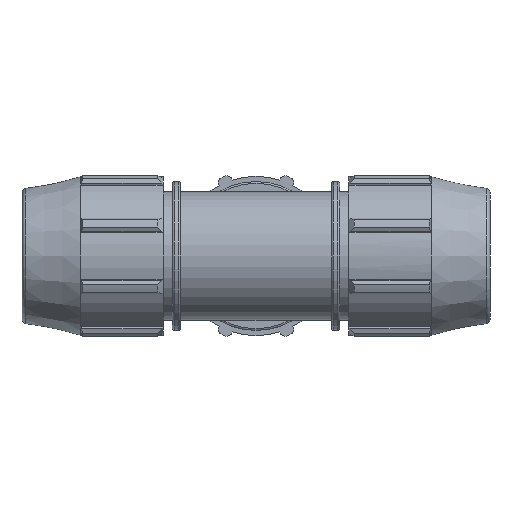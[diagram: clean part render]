
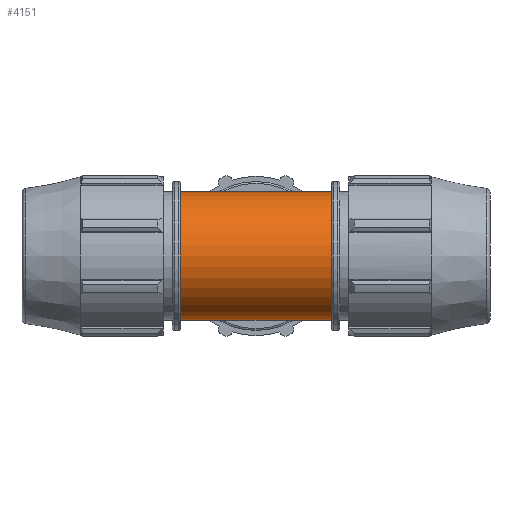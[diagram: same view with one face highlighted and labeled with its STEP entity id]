
A CAD part, front view. The second image highlights one B-rep face of the part: STEP entity #4151.
In plain terms, the highlighted cylindrical face has radius 24.003 mm (diameter 48.006 mm), a full revolution.
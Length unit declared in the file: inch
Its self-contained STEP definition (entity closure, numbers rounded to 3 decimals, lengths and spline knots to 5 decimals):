
#131=ELLIPSE('',#4396,1.33643,0.945);
#132=ELLIPSE('',#4397,1.33643,0.945);
#133=ELLIPSE('',#4399,1.33643,0.945);
#134=ELLIPSE('',#4400,1.33643,0.945);
#139=LINE('',#6057,#454);
#140=LINE('',#6063,#455);
#454=VECTOR('',#4858,0.945);
#455=VECTOR('',#4863,0.945);
#769=CYLINDRICAL_SURFACE('',#4393,0.945);
#850=FACE_OUTER_BOUND('',#1064,.T.);
#1064=EDGE_LOOP('',(#2583,#2584,#2585,#2586,#2587,#2588,#2589,#2590,#2591,
#2592,#2593));
#1299=CIRCLE('',#4394,0.945);
#1300=CIRCLE('',#4395,0.945);
#1301=CIRCLE('',#4398,0.945);
#1523=VERTEX_POINT('',#6052);
#1524=VERTEX_POINT('',#6053);
#1525=VERTEX_POINT('',#6056);
#1526=VERTEX_POINT('',#6058);
#1527=VERTEX_POINT('',#6060);
#1528=VERTEX_POINT('',#6062);
#1529=VERTEX_POINT('',#6065);
#1954=EDGE_CURVE('',#1523,#1524,#1299,.T.);
#1955=EDGE_CURVE('',#1524,#1523,#1300,.T.);
#1956=EDGE_CURVE('',#1524,#1525,#139,.T.);
#1957=EDGE_CURVE('',#1525,#1526,#131,.T.);
#1958=EDGE_CURVE('',#1526,#1527,#132,.T.);
#1959=EDGE_CURVE('',#1527,#1528,#140,.T.);
#1960=EDGE_CURVE('',#1528,#1528,#1301,.T.);
#1961=EDGE_CURVE('',#1527,#1529,#133,.T.);
#1962=EDGE_CURVE('',#1529,#1525,#134,.T.);
#2583=ORIENTED_EDGE('',*,*,#1954,.F.);
#2584=ORIENTED_EDGE('',*,*,#1955,.F.);
#2585=ORIENTED_EDGE('',*,*,#1956,.T.);
#2586=ORIENTED_EDGE('',*,*,#1957,.T.);
#2587=ORIENTED_EDGE('',*,*,#1958,.T.);
#2588=ORIENTED_EDGE('',*,*,#1959,.T.);
#2589=ORIENTED_EDGE('',*,*,#1960,.F.);
#2590=ORIENTED_EDGE('',*,*,#1959,.F.);
#2591=ORIENTED_EDGE('',*,*,#1961,.T.);
#2592=ORIENTED_EDGE('',*,*,#1962,.T.);
#2593=ORIENTED_EDGE('',*,*,#1956,.F.);
#4151=ADVANCED_FACE('',(#850),#769,.T.);
#4393=AXIS2_PLACEMENT_3D('',#6051,#4852,#4853);
#4394=AXIS2_PLACEMENT_3D('',#6054,#4854,#4855);
#4395=AXIS2_PLACEMENT_3D('',#6055,#4856,#4857);
#4396=AXIS2_PLACEMENT_3D('',#6059,#4859,#4860);
#4397=AXIS2_PLACEMENT_3D('',#6061,#4861,#4862);
#4398=AXIS2_PLACEMENT_3D('',#6064,#4864,#4865);
#4399=AXIS2_PLACEMENT_3D('',#6066,#4866,#4867);
#4400=AXIS2_PLACEMENT_3D('',#6067,#4868,#4869);
#4852=DIRECTION('center_axis',(-1.,0.,0.));
#4853=DIRECTION('ref_axis',(0.,-1.,0.));
#4854=DIRECTION('center_axis',(-1.,0.,0.));
#4855=DIRECTION('ref_axis',(0.,0.,-1.));
#4856=DIRECTION('center_axis',(-1.,0.,0.));
#4857=DIRECTION('ref_axis',(0.,0.,-1.));
#4858=DIRECTION('',(1.,0.,0.));
#4859=DIRECTION('center_axis',(-0.707,-0.707,0.));
#4860=DIRECTION('ref_axis',(-0.707,0.707,0.));
#4861=DIRECTION('center_axis',(0.707,-0.707,0.));
#4862=DIRECTION('ref_axis',(-0.707,-0.707,0.));
#4863=DIRECTION('',(1.,0.,0.));
#4864=DIRECTION('center_axis',(1.,0.,0.));
#4865=DIRECTION('ref_axis',(0.,0.,-1.));
#4866=DIRECTION('center_axis',(0.707,-0.707,0.));
#4867=DIRECTION('ref_axis',(-0.707,-0.707,0.));
#4868=DIRECTION('center_axis',(-0.707,-0.707,0.));
#4869=DIRECTION('ref_axis',(-0.707,0.707,0.));
#6051=CARTESIAN_POINT('Origin',(-1.00033,0.,
0.));
#6052=CARTESIAN_POINT('',(-1.11567,-0.945,0.));
#6053=CARTESIAN_POINT('',(-1.11567,0.945,0.));
#6054=CARTESIAN_POINT('Origin',(-1.11567,0.,
0.));
#6055=CARTESIAN_POINT('Origin',(-1.11567,0.,
0.));
#6056=CARTESIAN_POINT('',(-0.945,0.945,0.));
#6057=CARTESIAN_POINT('',(-1.00033,0.945,0.));
#6058=CARTESIAN_POINT('',(0.,0.,-0.945));
#6059=CARTESIAN_POINT('Origin',(0.,0.,0.));
#6060=CARTESIAN_POINT('',(0.945,0.945,0.));
#6061=CARTESIAN_POINT('Origin',(0.,0.,0.));
#6062=CARTESIAN_POINT('',(1.11567,0.945,0.));
#6063=CARTESIAN_POINT('',(-1.00033,0.945,0.));
#6064=CARTESIAN_POINT('Origin',(1.11567,0.,0.));
#6065=CARTESIAN_POINT('',(0.,0.,0.945));
#6066=CARTESIAN_POINT('Origin',(0.,0.,0.));
#6067=CARTESIAN_POINT('Origin',(0.,0.,0.));
